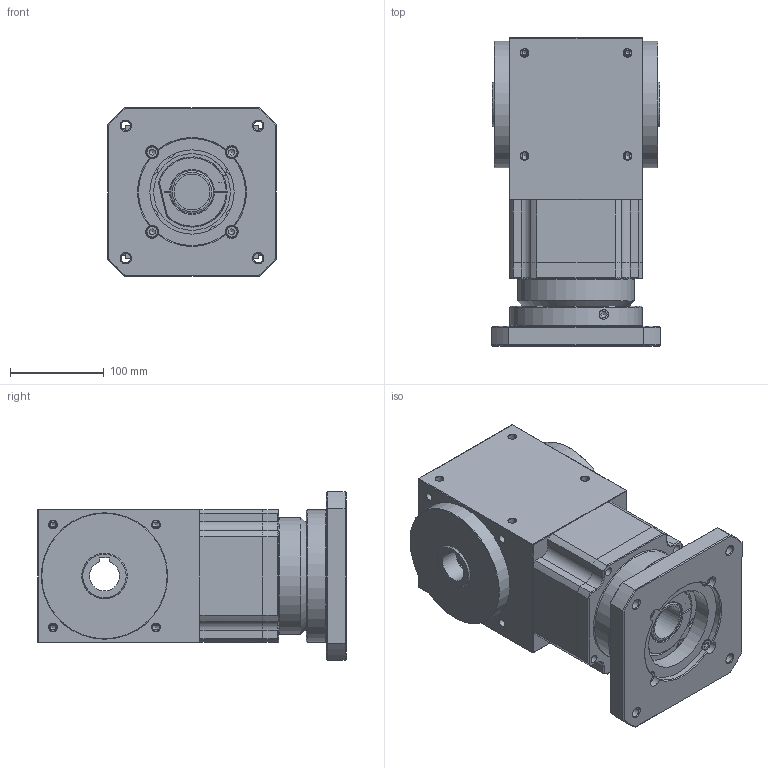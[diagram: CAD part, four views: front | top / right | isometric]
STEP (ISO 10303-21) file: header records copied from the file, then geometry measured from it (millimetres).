
FILE_DESCRIPTION((''),'2;1');
FILE_NAME('D:\유성\SBT 베벨기어박스\최종도면모음\3D\SBT142\SBT142PHS003~010H.stp','2014-05-20T18:49:51',('nagyu'),(''),'Autodesk Inventor 2013','Autodesk Inventor 2013','');
FILE_SCHEMA(('AUTOMOTIVE_DESIGN { 1 0 10303 214 1 1 1 1 }'));
Length unit declared in the file: millimetre
Products named in the file (1): SBT142PHS003~010H_Shrinkwrap_1
Bounding box: 180 x 329 x 180 mm (x, y, z)
Volume: 6348632.6 mm3; surface area: 356562.4 mm2
Topology: 1 solids, 10 shells, 568 faces, 1371 edges, 809 vertices
Faces by surface type: cylinder 242, plane 174, cone 126, torus 26
Full cylindrical faces by diameter (mm): 6.647 x4, 8 x5, 8.376 x20, 8.7 x10, 9 x4, 10 x3, 10.106 x5, 11 x1, 13 x5, 14 x10, 38 x1, 44.5 x1, 54.7 x1, 82 x1, 89 x2, 90 x1, 100 x1, 125 x1, 135 x2, 142 x1
Entity records: 16527 total; most frequent: CARTESIAN_POINT 4462, DIRECTION 2633, ORIENTED_EDGE 2204, AXIS2_PLACEMENT_3D 1146, EDGE_CURVE 1102, EDGE_LOOP 785, VERTEX_POINT 705, FACE_OUTER_BOUND 568
